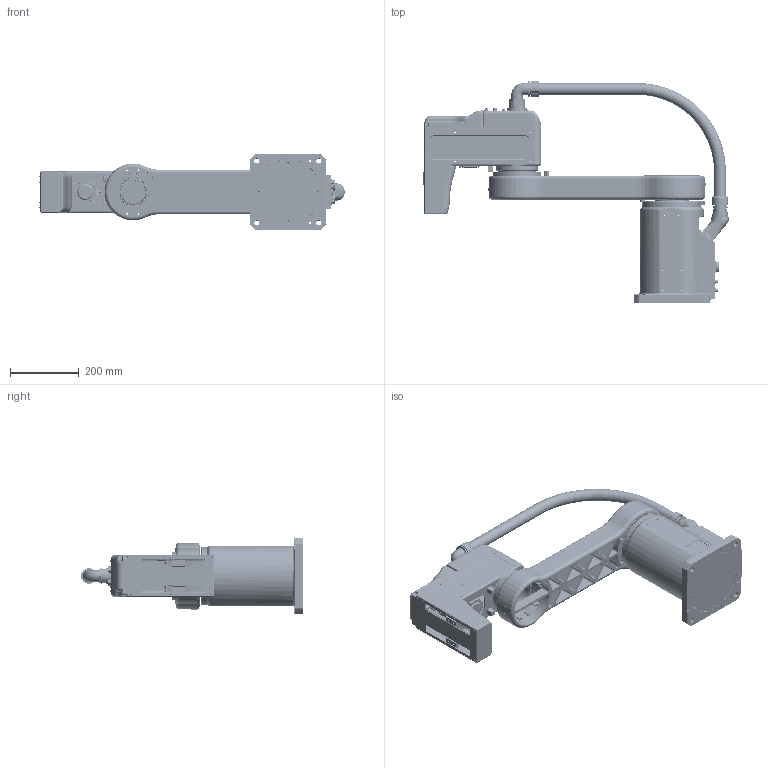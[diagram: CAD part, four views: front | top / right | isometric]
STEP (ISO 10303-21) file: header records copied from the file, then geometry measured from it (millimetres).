
FILE_DESCRIPTION (( 'STEP AP214' ), '1' );
FILE_NAME ('RS3-1007 坶蹟佪儂 3D耀倰.STEP', '2023-06-09T01:37:09', ( 'iCura' ), ( 'ICOS' ), 'SwSTEP 2.0', 'SolidWorks 2018', '' );
FILE_SCHEMA (( 'AUTOMOTIVE_DESIGN' ));
Length unit declared in the file: millimetre
Products named in the file (7): 疏恇奪20; RS3-1007-1-00; RS3-1007-3-00; 蚾饜极1; RS3-1007 坶蹟佪儂 3D耀倰; R4-1085-2-00 ; 旋转软管接头
Assembly tree (6 placements, depth 2):
  RS3-1007 坶蹟佪儂 3D耀倰
    RS3-1007-1-00
    R4-1085-2-00 
    RS3-1007-3-00
    蚾饜极1
    旋转软管接头
    疏恇奪20
Bounding box: 887.5 x 645 x 220 mm (x, y, z)
Volume: 243768.4 mm3; surface area: 1624200.1 mm2
Topology: 2 solids, 317 shells, 2801 faces, 9011 edges, 6353 vertices
Faces by surface type: plane 1180, cylinder 994, cone 233, bspline 180, torus 150, sphere 64
Full cylindrical faces by diameter (mm): 1 x18, 2.5 x15, 3.1 x3, 3.2 x8, 3.3 x4, 3.4 x8, 3.5 x5, 4.134 x1, 4.2 x34, 4.5 x14, 5 x11, 5.5 x54, 6 x14, 6.5 x1, 6.6 x34, 7 x6, 8 x12, 8.5 x1, 10 x53, 11 x11, 13 x4, 14 x5, 15 x3, 15.4 x1, 17.4 x1, 19 x1, 19.79 x1, 19.8 x1, 22.6 x1, 23 x1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
Entity records: 142444 total; most frequent: CARTESIAN_POINT 41569, DIRECTION 15508, ORIENTED_EDGE 12822, EDGE_CURVE 8085, VERTEX_POINT 6124, AXIS2_PLACEMENT_3D 5904, EDGE_LOOP 4124, VECTOR 3700
